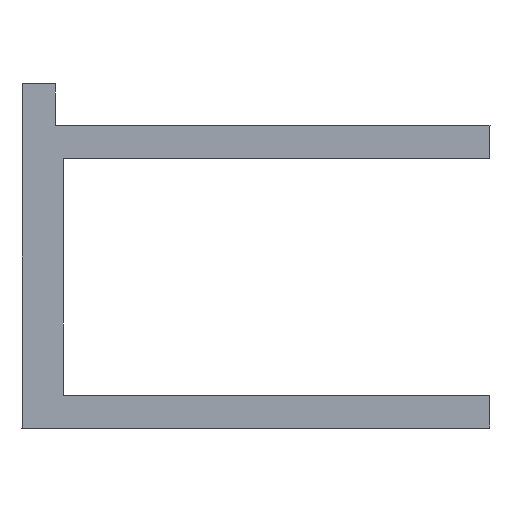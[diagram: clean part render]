
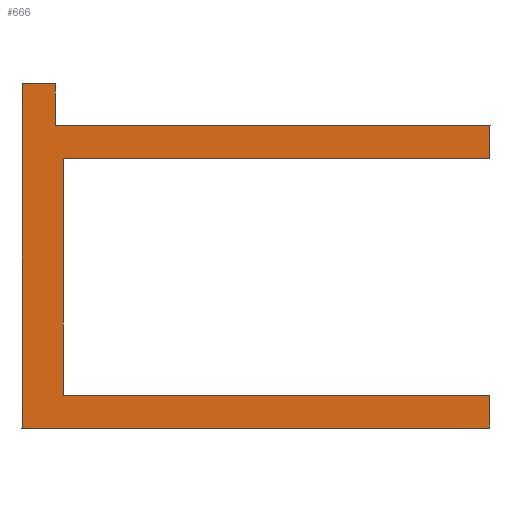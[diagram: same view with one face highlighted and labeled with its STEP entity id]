
A CAD part, left-side view. The second image highlights one B-rep face of the part: STEP entity #666.
In plain terms, the highlighted planar face has unit normal (-1, 0, 0).
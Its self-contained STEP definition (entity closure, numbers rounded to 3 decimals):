
#362=ORIENTED_EDGE('',*,*,#467,.T.);
#363=ORIENTED_EDGE('',*,*,#470,.T.);
#364=ORIENTED_EDGE('',*,*,#473,.T.);
#365=ORIENTED_EDGE('',*,*,#476,.T.);
#366=ORIENTED_EDGE('',*,*,#479,.T.);
#367=ORIENTED_EDGE('',*,*,#482,.T.);
#368=ORIENTED_EDGE('',*,*,#485,.T.);
#369=ORIENTED_EDGE('',*,*,#488,.T.);
#370=ORIENTED_EDGE('',*,*,#490,.T.);
#371=ORIENTED_EDGE('',*,*,#463,.T.);
#383=VECTOR('',#519,1.);
#387=VECTOR('',#525,1.);
#390=VECTOR('',#530,1.);
#393=VECTOR('',#535,1.);
#396=VECTOR('',#540,1.);
#399=VECTOR('',#545,1.);
#402=VECTOR('',#550,1.);
#405=VECTOR('',#555,1.);
#408=VECTOR('',#560,1.);
#410=VECTOR('',#564,1.);
#413=LINE('',#575,#383);
#417=LINE('',#583,#387);
#420=LINE('',#589,#390);
#423=LINE('',#595,#393);
#426=LINE('',#601,#396);
#429=LINE('',#607,#399);
#432=LINE('',#613,#402);
#435=LINE('',#619,#405);
#438=LINE('',#625,#408);
#440=LINE('',#628,#410);
#442=VERTEX_POINT('',#571);
#444=VERTEX_POINT('',#574);
#446=VERTEX_POINT('',#580);
#448=VERTEX_POINT('',#586);
#450=VERTEX_POINT('',#592);
#452=VERTEX_POINT('',#598);
#454=VERTEX_POINT('',#604);
#456=VERTEX_POINT('',#610);
#458=VERTEX_POINT('',#616);
#460=VERTEX_POINT('',#622);
#463=EDGE_CURVE('',#444,#442,#413,.T.);
#467=EDGE_CURVE('',#442,#446,#417,.T.);
#470=EDGE_CURVE('',#446,#448,#420,.T.);
#473=EDGE_CURVE('',#448,#450,#423,.T.);
#476=EDGE_CURVE('',#450,#452,#426,.T.);
#479=EDGE_CURVE('',#452,#454,#429,.T.);
#482=EDGE_CURVE('',#454,#456,#432,.T.);
#485=EDGE_CURVE('',#456,#458,#435,.T.);
#488=EDGE_CURVE('',#458,#460,#438,.T.);
#490=EDGE_CURVE('',#460,#444,#440,.T.);
#502=EDGE_LOOP('',(#362,#363,#364,#365,#366,#367,#368,#369,#370,#371));
#514=FACE_BOUND('',#502,.T.);
#519=DIRECTION('',(0.,0.,1.5));
#525=DIRECTION('',(0.,1.2,0.));
#530=DIRECTION('',(0.,0.,-12.5));
#535=DIRECTION('',(0.,-17.,0.));
#540=DIRECTION('',(0.,0.,1.193));
#545=DIRECTION('',(0.,15.5,0.));
#550=DIRECTION('',(0.,0.,8.6));
#555=DIRECTION('',(0.,-15.5,0.));
#560=DIRECTION('',(0.,0.,1.207));
#564=DIRECTION('',(0.,15.8,0.));
#566=DIRECTION('',(-1.,0.,0.));
#567=DIRECTION('',(0.,1.,0.));
#571=CARTESIAN_POINT('',(0.,15.8,7.));
#574=CARTESIAN_POINT('',(0.,15.8,5.5));
#575=CARTESIAN_POINT('',(0.,15.8,5.5));
#580=CARTESIAN_POINT('',(0.,17.,7.));
#583=CARTESIAN_POINT('',(0.,15.8,7.));
#586=CARTESIAN_POINT('',(0.,17.,-5.5));
#589=CARTESIAN_POINT('',(0.,17.,7.));
#592=CARTESIAN_POINT('',(0.,0.,-5.5));
#595=CARTESIAN_POINT('',(0.,17.,-5.5));
#598=CARTESIAN_POINT('',(0.,0.,-4.307));
#601=CARTESIAN_POINT('',(0.,0.,-5.5));
#604=CARTESIAN_POINT('',(0.,15.5,-4.307));
#607=CARTESIAN_POINT('',(0.,0.,-4.307));
#610=CARTESIAN_POINT('',(0.,15.5,4.293));
#613=CARTESIAN_POINT('',(0.,15.5,-4.307));
#616=CARTESIAN_POINT('',(0.,0.,4.293));
#619=CARTESIAN_POINT('',(0.,15.5,4.293));
#622=CARTESIAN_POINT('',(0.,0.,5.5));
#625=CARTESIAN_POINT('',(0.,0.,4.293));
#628=CARTESIAN_POINT('',(0.,0.,5.5));
#630=CARTESIAN_POINT('',(0.,0.,0.));
#642=AXIS2_PLACEMENT_3D('',#630,#566,#567);
#654=PLANE('',#642);
#666=ADVANCED_FACE('',(#514),#654,.T.);
